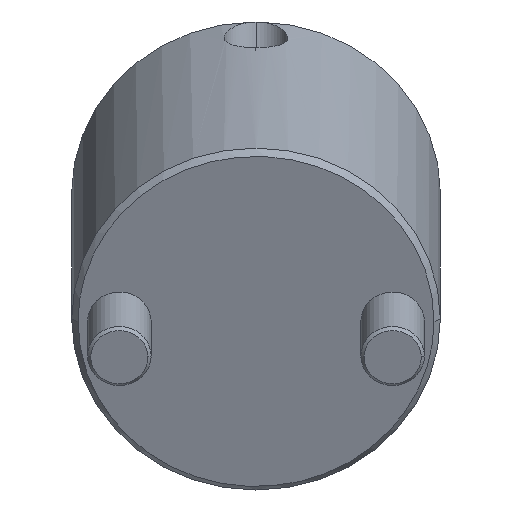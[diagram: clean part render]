
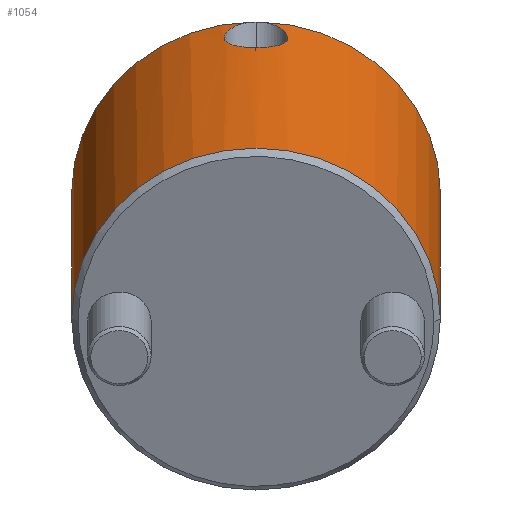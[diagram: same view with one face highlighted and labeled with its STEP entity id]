
A CAD part, front view. The second image highlights one B-rep face of the part: STEP entity #1054.
In plain terms, the highlighted cylindrical face has radius 29 mm (diameter 58 mm), a partial arc.
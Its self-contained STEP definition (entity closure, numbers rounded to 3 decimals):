
#781=CARTESIAN_POINT('Vertex',(0.,29.,1.)) ;
#784=CARTESIAN_POINT('Axis2P3D Location',(0.,0.,1.)) ;
#788=CARTESIAN_POINT('Vertex',(0.,-29.,1.)) ;
#940=CARTESIAN_POINT('Axis2P3D Location',(0.,0.,-2.75)) ;
#945=CARTESIAN_POINT('Axis2P3D Location',(0.,0.,54.)) ;
#949=CARTESIAN_POINT('Vertex',(28.994,-0.6,54.)) ;
#951=CARTESIAN_POINT('Vertex',(0.,-29.,54.)) ;
#954=CARTESIAN_POINT('Line Origine',(0.,-29.,-2.75)) ;
#959=CARTESIAN_POINT('Line Origine',(0.,29.,-2.75)) ;
#963=CARTESIAN_POINT('Vertex',(0.,29.,54.)) ;
#966=CARTESIAN_POINT('Axis2P3D Location',(0.,0.,54.)) ;
#970=CARTESIAN_POINT('Vertex',(28.994,0.6,54.)) ;
#974=CARTESIAN_POINT('Control Point',(28.994,0.6,54.)) ;
#975=CARTESIAN_POINT('Control Point',(28.985,1.008,53.943)) ;
#976=CARTESIAN_POINT('Control Point',(28.97,1.41,53.839)) ;
#977=CARTESIAN_POINT('Control Point',(28.948,1.802,53.688)) ;
#978=CARTESIAN_POINT('Control Point',(28.906,2.374,53.389)) ;
#979=CARTESIAN_POINT('Control Point',(28.856,2.896,52.996)) ;
#980=CARTESIAN_POINT('Control Point',(28.838,3.065,52.854)) ;
#981=CARTESIAN_POINT('Control Point',(28.793,3.477,52.468)) ;
#982=CARTESIAN_POINT('Control Point',(28.745,3.843,52.022)) ;
#983=CARTESIAN_POINT('Control Point',(28.717,4.046,51.733)) ;
#984=CARTESIAN_POINT('Control Point',(28.664,4.406,51.121)) ;
#985=CARTESIAN_POINT('Control Point',(28.621,4.673,50.461)) ;
#986=CARTESIAN_POINT('Control Point',(28.603,4.782,50.123)) ;
#987=CARTESIAN_POINT('Control Point',(28.575,4.948,49.432)) ;
#988=CARTESIAN_POINT('Control Point',(28.564,5.011,48.723)) ;
#989=CARTESIAN_POINT('Control Point',(28.563,5.015,48.368)) ;
#990=CARTESIAN_POINT('Control Point',(28.57,4.978,47.786)) ;
#991=CARTESIAN_POINT('Control Point',(28.588,4.869,47.223)) ;
#992=CARTESIAN_POINT('Control Point',(28.598,4.815,47.003)) ;
#993=CARTESIAN_POINT('Control Point',(28.62,4.683,46.572)) ;
#994=CARTESIAN_POINT('Control Point',(28.648,4.509,46.159)) ;
#995=CARTESIAN_POINT('Control Point',(28.663,4.411,45.958)) ;
#996=CARTESIAN_POINT('Control Point',(28.695,4.196,45.571)) ;
#997=CARTESIAN_POINT('Control Point',(28.731,3.943,45.212)) ;
#998=CARTESIAN_POINT('Control Point',(28.75,3.806,45.04)) ;
#999=CARTESIAN_POINT('Control Point',(28.806,3.372,44.548)) ;
#1000=CARTESIAN_POINT('Control Point',(28.861,2.864,44.135)) ;
#1001=CARTESIAN_POINT('Control Point',(28.896,2.496,43.899)) ;
#1002=CARTESIAN_POINT('Control Point',(28.95,1.794,43.551)) ;
#1003=CARTESIAN_POINT('Control Point',(28.984,1.039,43.348)) ;
#1004=CARTESIAN_POINT('Control Point',(28.995,0.694,43.286)) ;
#1005=CARTESIAN_POINT('Control Point',(29.,0.348,43.256)) ;
#1006=CARTESIAN_POINT('Control Point',(29.,0.,43.256)) ;
#1007=CARTESIAN_POINT('Vertex',(29.,0.,43.256)) ;
#1011=CARTESIAN_POINT('Control Point',(29.,0.,43.256)) ;
#1012=CARTESIAN_POINT('Control Point',(29.,-0.217,43.256)) ;
#1013=CARTESIAN_POINT('Control Point',(28.998,-0.433,43.268)) ;
#1014=CARTESIAN_POINT('Control Point',(28.994,-0.648,43.291)) ;
#1015=CARTESIAN_POINT('Control Point',(28.979,-1.182,43.38)) ;
#1016=CARTESIAN_POINT('Control Point',(28.953,-1.701,43.54)) ;
#1017=CARTESIAN_POINT('Control Point',(28.933,-2.002,43.661)) ;
#1018=CARTESIAN_POINT('Control Point',(28.896,-2.487,43.905)) ;
#1019=CARTESIAN_POINT('Control Point',(28.852,-2.933,44.213)) ;
#1020=CARTESIAN_POINT('Control Point',(28.834,-3.105,44.346)) ;
#1021=CARTESIAN_POINT('Control Point',(28.778,-3.599,44.773)) ;
#1022=CARTESIAN_POINT('Control Point',(28.722,-4.021,45.282)) ;
#1023=CARTESIAN_POINT('Control Point',(28.686,-4.265,45.65)) ;
#1024=CARTESIAN_POINT('Control Point',(28.638,-4.571,46.246)) ;
#1025=CARTESIAN_POINT('Control Point',(28.603,-4.782,46.886)) ;
#1026=CARTESIAN_POINT('Control Point',(28.593,-4.841,47.105)) ;
#1027=CARTESIAN_POINT('Control Point',(28.568,-4.986,47.778)) ;
#1028=CARTESIAN_POINT('Control Point',(28.561,-5.029,48.48)) ;
#1029=CARTESIAN_POINT('Control Point',(28.564,-5.008,48.955)) ;
#1030=CARTESIAN_POINT('Control Point',(28.591,-4.856,50.013)) ;
#1031=CARTESIAN_POINT('Control Point',(28.653,-4.482,51.003)) ;
#1032=CARTESIAN_POINT('Control Point',(28.697,-4.202,51.538)) ;
#1033=CARTESIAN_POINT('Control Point',(28.764,-3.725,52.213)) ;
#1034=CARTESIAN_POINT('Control Point',(28.829,-3.155,52.773)) ;
#1035=CARTESIAN_POINT('Control Point',(28.846,-2.988,52.919)) ;
#1036=CARTESIAN_POINT('Control Point',(28.881,-2.643,53.192)) ;
#1037=CARTESIAN_POINT('Control Point',(28.912,-2.275,53.423)) ;
#1038=CARTESIAN_POINT('Control Point',(28.926,-2.086,53.527)) ;
#1039=CARTESIAN_POINT('Control Point',(28.953,-1.685,53.721)) ;
#1040=CARTESIAN_POINT('Control Point',(28.973,-1.269,53.863)) ;
#1041=CARTESIAN_POINT('Control Point',(28.982,-1.047,53.923)) ;
#1042=CARTESIAN_POINT('Control Point',(28.989,-0.825,53.969)) ;
#1043=CARTESIAN_POINT('Control Point',(28.994,-0.6,54.)) ;
#785=DIRECTION('Axis2P3D Direction',(0.,0.,1.)) ;
#941=DIRECTION('Axis2P3D Direction',(0.,-0.,1.)) ;
#942=DIRECTION('Axis2P3D XDirection',(0.,-1.,0.)) ;
#946=DIRECTION('Axis2P3D Direction',(0.,-0.,1.)) ;
#955=DIRECTION('Vector Direction',(0.,0.,1.)) ;
#960=DIRECTION('Vector Direction',(0.,0.,1.)) ;
#967=DIRECTION('Axis2P3D Direction',(0.,-0.,1.)) ;
#786=AXIS2_PLACEMENT_3D('Circle Axis2P3D',#784,#785,$) ;
#943=AXIS2_PLACEMENT_3D('Cylinder Axis2P3D',#940,#941,#942) ;
#947=AXIS2_PLACEMENT_3D('Circle Axis2P3D',#945,#946,$) ;
#968=AXIS2_PLACEMENT_3D('Circle Axis2P3D',#966,#967,$) ;
#1046=ORIENTED_EDGE('',*,*,#953,.T.) ;
#1047=ORIENTED_EDGE('',*,*,#958,.T.) ;
#1048=ORIENTED_EDGE('',*,*,#790,.F.) ;
#1049=ORIENTED_EDGE('',*,*,#965,.F.) ;
#1050=ORIENTED_EDGE('',*,*,#972,.T.) ;
#1051=ORIENTED_EDGE('',*,*,#1009,.T.) ;
#1052=ORIENTED_EDGE('',*,*,#1044,.T.) ;
#956=VECTOR('Line Direction',#955,1.) ;
#961=VECTOR('Line Direction',#960,1.) ;
#1054=ADVANCED_FACE('MANIFOLD_SOLID_BREP #1173',(#1053),#944,.T.) ;
#973=B_SPLINE_CURVE_WITH_KNOTS('',5,(#974,#975,#976,#977,#978,#979,#980,#981,#982,#983,#984,#985,#986,#987,#988,#989,#990,#991,#992,#993,#994,#995,#996,#997,#998,#999,#1000,#1001,#1002,#1003,#1004,#1005,#1006),.UNSPECIFIED.,.F.,.U.,(6,3,3,3,3,3,3,3,3,3,6),(0.,3.108,4.689,7.088,9.524,11.908,13.487,15.066,16.639,19.78,22.301),.UNSPECIFIED.) ;
#1010=B_SPLINE_CURVE_WITH_KNOTS('',5,(#1011,#1012,#1013,#1014,#1015,#1016,#1017,#1018,#1019,#1020,#1021,#1022,#1023,#1024,#1025,#1026,#1027,#1028,#1029,#1030,#1031,#1032,#1033,#1034,#1035,#1036,#1037,#1038,#1039,#1040,#1041,#1042,#1043),.UNSPECIFIED.,.F.,.U.,(6,3,3,3,3,3,3,3,3,3,6),(0.,1.571,3.927,5.495,8.649,10.224,13.413,17.443,19.027,20.593,22.304),.UNSPECIFIED.) ;
#787=CIRCLE('generated circle',#786,29.) ;
#948=CIRCLE('generated circle',#947,29.) ;
#969=CIRCLE('generated circle',#968,29.) ;
#944=CYLINDRICAL_SURFACE('generated cylinder',#943,29.) ;
#790=EDGE_CURVE('',#782,#789,#787,.F.) ;
#953=EDGE_CURVE('',#950,#952,#948,.F.) ;
#958=EDGE_CURVE('',#952,#789,#957,.F.) ;
#965=EDGE_CURVE('',#964,#782,#962,.F.) ;
#972=EDGE_CURVE('',#964,#971,#969,.F.) ;
#1009=EDGE_CURVE('',#971,#1008,#973,.T.) ;
#1044=EDGE_CURVE('',#1008,#950,#1010,.T.) ;
#1045=EDGE_LOOP('',(#1046,#1047,#1048,#1049,#1050,#1051,#1052)) ;
#1053=FACE_OUTER_BOUND('',#1045,.T.) ;
#957=LINE('Line',#954,#956) ;
#962=LINE('Line',#959,#961) ;
#782=VERTEX_POINT('',#781) ;
#789=VERTEX_POINT('',#788) ;
#950=VERTEX_POINT('',#949) ;
#952=VERTEX_POINT('',#951) ;
#964=VERTEX_POINT('',#963) ;
#971=VERTEX_POINT('',#970) ;
#1008=VERTEX_POINT('',#1007) ;
